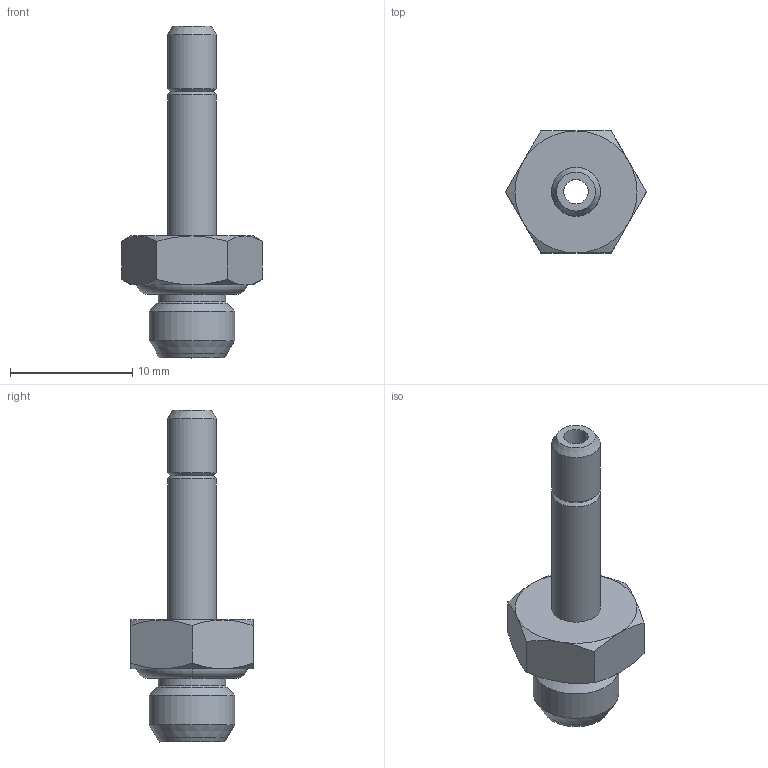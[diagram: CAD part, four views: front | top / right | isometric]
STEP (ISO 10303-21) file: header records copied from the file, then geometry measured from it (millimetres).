
FILE_DESCRIPTION(('Bauteilbeschreibung','HiCAD-Model','HiCAD-STEP-TRANSLATION','Bauteilbeschreibung'),'2;1');
FILE_NAME('B:/ABGLEICH/ZEICHNUNGEN/STEP FÜR INTERNET/STEP/IPSO 06/200621_IPSO_06_4_M7.STP','2012-03-07T15:51:12+00:00',('Konstrukteur'),('Konstrukteur Firma GmbH'),' HiCAD neXt 2008, Step 3.1.1401.2J ','HiCAD neXt 2008','confidential');
FILE_SCHEMA(('AUTOMOTIVE_DESIGN { 1 2 10303 214 0 1 1 1 }'));
Length unit declared in the file: millimetre
Products named in the file (5): A00621_IPSO_06_4_M7; A00621_N; A006210N; DIN 13_M7; OR 5_28X1_78
Assembly tree (4 placements, depth 3):
  A00621_IPSO_06_4_M7
    A00621_N
    A006210N
      DIN 13_M7
    OR 5_28X1_78
Bounding box: 11.55 x 10 x 27.2 mm (x, y, z)
Volume: 607.1 mm3; surface area: 1165.7 mm2
Topology: 3 solids, 3 shells, 46 faces, 97 edges, 56 vertices
Faces by surface type: cone 21, plane 11, cylinder 8, torus 6
Full cylindrical faces by diameter (mm): 2 x1, 4 x3, 5.5 x1, 5.773 x2, 7 x1
Entity records: 1517 total; most frequent: CARTESIAN_POINT 226, DIRECTION 200, ORIENTED_EDGE 146, AXIS2_PLACEMENT_3D 97, EDGE_CURVE 73, EDGE_LOOP 70, COLOUR_RGB 68, PRESENTATION_STYLE_ASSIGNMENT 68
